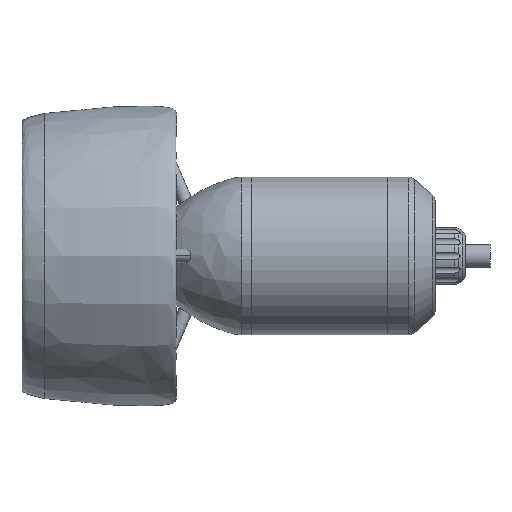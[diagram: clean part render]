
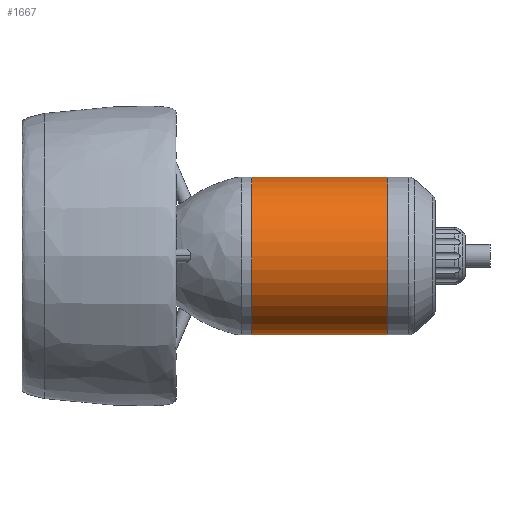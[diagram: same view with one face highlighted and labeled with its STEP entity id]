
A CAD part, top view. The second image highlights one B-rep face of the part: STEP entity #1667.
In plain terms, the highlighted cylindrical face has radius 26.2 mm (diameter 52.4 mm), a partial arc.
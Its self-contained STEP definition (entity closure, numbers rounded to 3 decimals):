
#102 = DIRECTION ( 'NONE',  ( 0., 1., 0. ) ) ;
#106 = CYLINDRICAL_SURFACE ( 'NONE', #3102, 26.2 ) ;
#157 = EDGE_LOOP ( 'NONE', ( #3947, #1198, #375, #2196 ) ) ;
#320 = CARTESIAN_POINT ( 'NONE',  ( 0., 0., 0. ) ) ;
#375 = ORIENTED_EDGE ( 'NONE', *, *, #1986, .F. ) ;
#507 = LINE ( 'NONE', #1966, #2882 ) ;
#663 = CARTESIAN_POINT ( 'NONE',  ( 79.279, -26.2, 0. ) ) ;
#710 = LINE ( 'NONE', #663, #3783 ) ;
#816 = FACE_OUTER_BOUND ( 'NONE', #157, .T. ) ;
#1031 = DIRECTION ( 'NONE',  ( 1., 0., 0. ) ) ;
#1198 = ORIENTED_EDGE ( 'NONE', *, *, #2539, .T. ) ;
#1419 = CARTESIAN_POINT ( 'NONE',  ( 0., -26.2, 0. ) ) ;
#1482 = AXIS2_PLACEMENT_3D ( 'NONE', #3266, #3590, #102 ) ;
#1491 = EDGE_CURVE ( 'NONE', #2621, #2895, #507, .T. ) ;
#1510 = CIRCLE ( 'NONE', #4095, 26.2 ) ;
#1512 = CARTESIAN_POINT ( 'NONE',  ( 79.279, 0., 0. ) ) ;
#1667 = ADVANCED_FACE ( 'NONE', ( #816 ), #106, .T. ) ;
#1772 = DIRECTION ( 'NONE',  ( 0., 1., 0. ) ) ;
#1966 = CARTESIAN_POINT ( 'NONE',  ( 79.279, 26.2, 0. ) ) ;
#1986 = EDGE_CURVE ( 'NONE', #2895, #4378, #3036, .T. ) ;
#2196 = ORIENTED_EDGE ( 'NONE', *, *, #1491, .F. ) ;
#2539 = EDGE_CURVE ( 'NONE', #3736, #4378, #710, .T. ) ;
#2621 = VERTEX_POINT ( 'NONE', #3228 ) ;
#2882 = VECTOR ( 'NONE', #2975, 1000. ) ;
#2895 = VERTEX_POINT ( 'NONE', #3805 ) ;
#2916 = DIRECTION ( 'NONE',  ( 0., 1., 0. ) ) ;
#2975 = DIRECTION ( 'NONE',  ( 1., 0., 0. ) ) ;
#3036 = CIRCLE ( 'NONE', #1482, 26.2 ) ;
#3102 = AXIS2_PLACEMENT_3D ( 'NONE', #1512, #3690, #2916 ) ;
#3113 = DIRECTION ( 'NONE',  ( 1., 0., 0. ) ) ;
#3228 = CARTESIAN_POINT ( 'NONE',  ( 0., 26.2, 0. ) ) ;
#3266 = CARTESIAN_POINT ( 'NONE',  ( 45., 0., 0. ) ) ;
#3351 = EDGE_CURVE ( 'NONE', #2621, #3736, #1510, .T. ) ;
#3590 = DIRECTION ( 'NONE',  ( 1., 0., 0. ) ) ;
#3690 = DIRECTION ( 'NONE',  ( 1., 0., 0. ) ) ;
#3736 = VERTEX_POINT ( 'NONE', #1419 ) ;
#3783 = VECTOR ( 'NONE', #1031, 1000. ) ;
#3805 = CARTESIAN_POINT ( 'NONE',  ( 45., 26.2, 0. ) ) ;
#3947 = ORIENTED_EDGE ( 'NONE', *, *, #3351, .T. ) ;
#4095 = AXIS2_PLACEMENT_3D ( 'NONE', #320, #3113, #1772 ) ;
#4106 = CARTESIAN_POINT ( 'NONE',  ( 45., -26.2, 0. ) ) ;
#4378 = VERTEX_POINT ( 'NONE', #4106 ) ;
